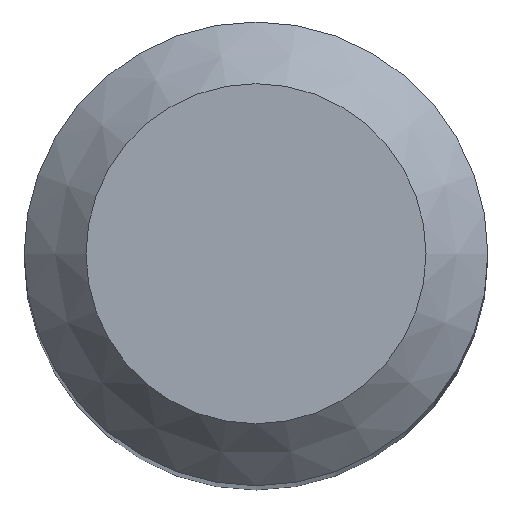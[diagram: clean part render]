
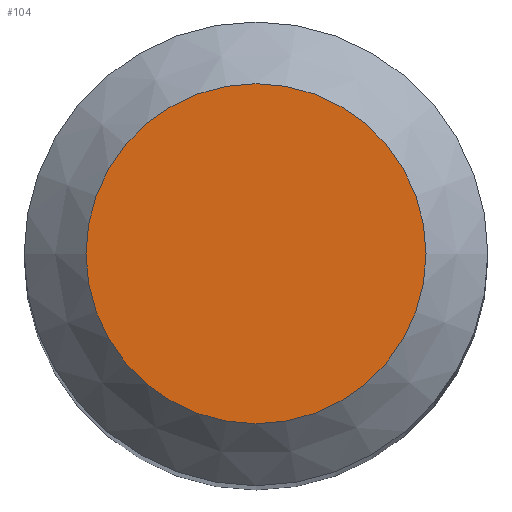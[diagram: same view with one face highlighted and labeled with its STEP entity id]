
A CAD part, top view. The second image highlights one B-rep face of the part: STEP entity #104.
In plain terms, the highlighted planar face has unit normal (0, 0, 1).
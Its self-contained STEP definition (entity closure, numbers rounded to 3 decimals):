
#88=CARTESIAN_POINT('',(2.2,0.0,65.0));
#89=DIRECTION('',(0.0,0.0,1.0));
#90=DIRECTION('',(1.0,0.0,0.0));
#91=AXIS2_PLACEMENT_3D('',#88,#89,#90);
#92=PLANE('',#91);
#93=CARTESIAN_POINT('',(-2.2,0.0,65.0));
#94=VERTEX_POINT('',#93);
#95=CARTESIAN_POINT('',(0.0,0.0,65.0));
#96=DIRECTION('',(0.0,0.0,-1.0));
#97=DIRECTION('',(-1.0,0.0,0.0));
#98=AXIS2_PLACEMENT_3D('',#95,#96,#97);
#99=CIRCLE('',#98,2.2);
#100=EDGE_CURVE('',#94,#94,#99,.T.);
#101=ORIENTED_EDGE('',*,*,#100,.F.);
#102=EDGE_LOOP('',(#101));
#103=FACE_OUTER_BOUND('',#102,.T.);
#104=ADVANCED_FACE('',(#103),#92,.T.);
